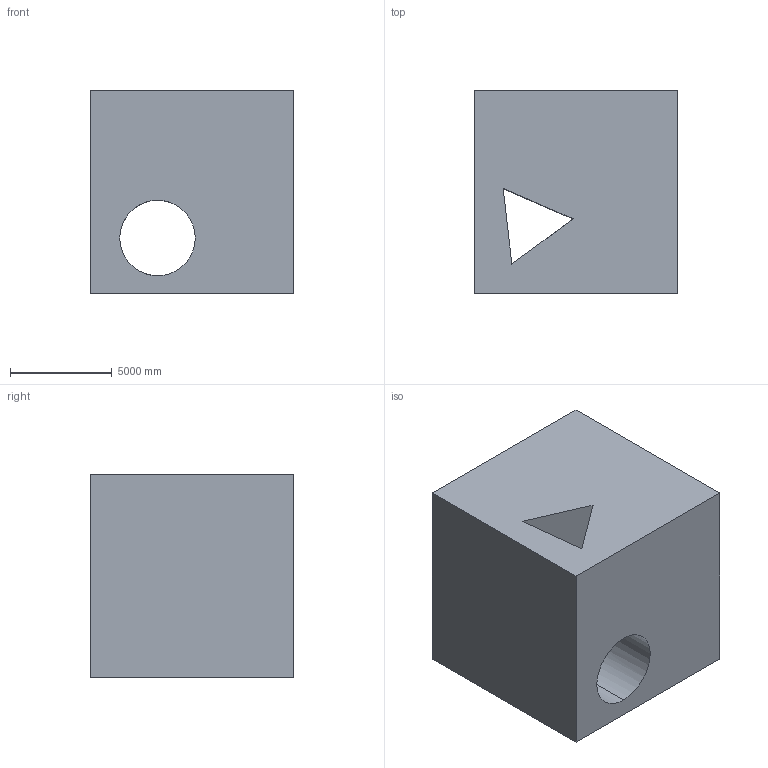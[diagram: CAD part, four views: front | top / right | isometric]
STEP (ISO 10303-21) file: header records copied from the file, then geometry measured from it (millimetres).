
FILE_DESCRIPTION (( 'STEP AP203' ), '1' );
FILE_NAME ('1123.STEP', '2022-08-18T12:51:06', ( 'user' ), ( '' ), 'SwSTEP 2.0', 'SolidWorks 2021', '' );
FILE_SCHEMA (( 'CONFIG_CONTROL_DESIGN' ));
Length unit declared in the file: centimetre
Products named in the file (1): 1123
Bounding box: 10000 x 10000 x 10000 mm (x, y, z)
Volume: 849623720928.7 mm3; surface area: 750690628.8 mm2
Topology: 1 solids, 1 shells, 13 faces, 39 edges, 26 vertices
Faces by surface type: plane 10, cylinder 3
Entity records: 526 total; most frequent: CARTESIAN_POINT 103, ORIENTED_EDGE 78, DIRECTION 63, EDGE_CURVE 39, VECTOR 27, LINE 27, VERTEX_POINT 26, AXIS2_PLACEMENT_3D 18
